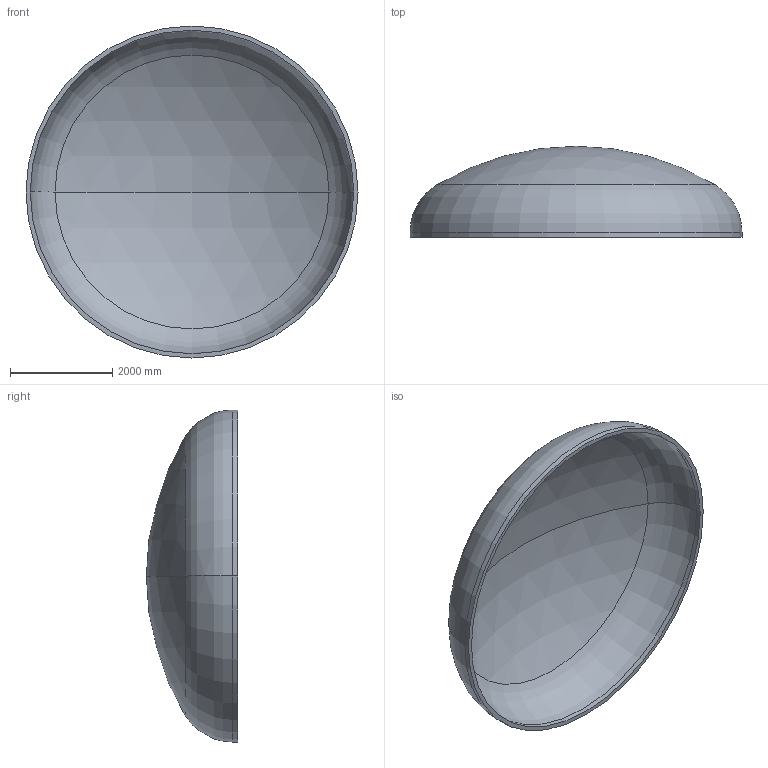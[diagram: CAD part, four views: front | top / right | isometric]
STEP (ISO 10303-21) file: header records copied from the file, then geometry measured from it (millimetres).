
FILE_DESCRIPTION (( 'STEP AP203' ), '1' );
FILE_NAME ('DIN 28013 Korbbogenform_-_Boden DIN 28013 - 6500 x 100 - I - s=84.step', '2016-07-04T10:43:29', ( '' ), ( '' ), 'SwSTEP 2.0', 'SolidWorks 2013', '' );
FILE_SCHEMA (( 'CONFIG_CONTROL_DESIGN' ));
Length unit declared in the file: millimetre
Products named in the file (1): DIN 28013 Korbbogenform_-_Boden DIN 28013 - 6500 x 100 - I - s=84
Bounding box: 6500 x 1785.61 x 6500 mm (x, y, z)
Volume: 3963663208.9 mm3; surface area: 96080818.1 mm2
Topology: 1 solids, 1 shells, 13 faces, 24 edges, 14 vertices
Faces by surface type: torus 4, cylinder 4, sphere 4, plane 1
Entity records: 407 total; most frequent: DIRECTION 72, CARTESIAN_POINT 52, ORIENTED_EDGE 48, AXIS2_PLACEMENT_3D 34, EDGE_CURVE 24, CIRCLE 20, VERTEX_POINT 14, EDGE_LOOP 14
